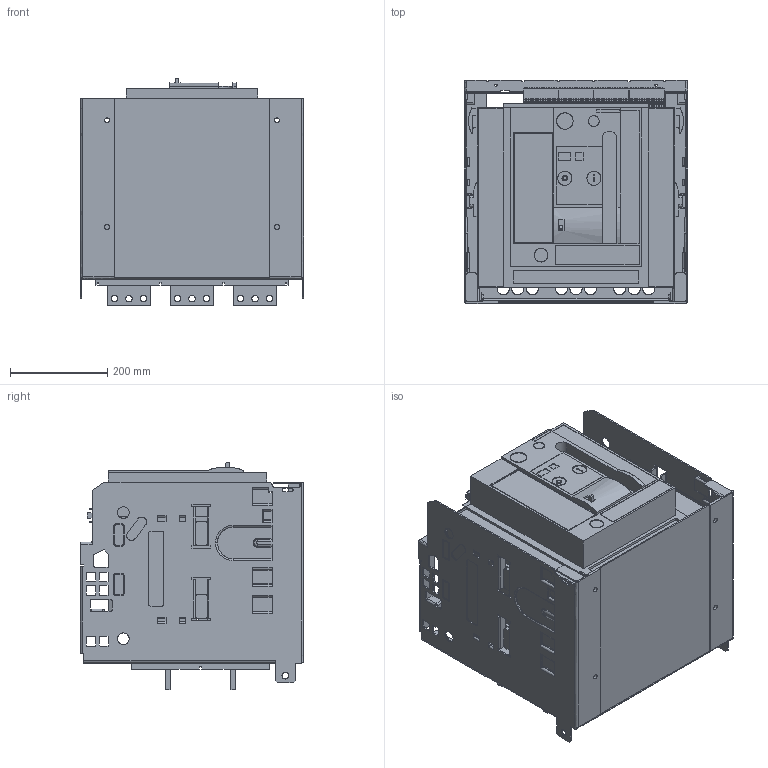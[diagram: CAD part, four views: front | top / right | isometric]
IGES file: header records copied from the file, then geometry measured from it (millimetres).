
Start section: SolidWorks IGES file using analytic representation for surfaces
Global section: file name: U:\14_RD\05_Technical_office\04_Office\Hrdinova\3D modely - IGES\Arion\ARION_WL1220-___36.IGS; native system: SolidWorks 2011; preprocessor: SolidWorks 2011; author: adhrja3; date: 170609.081340; units: millimetre
Bounding box: 460 x 460 x 469.66 mm (x, y, z)
Surface area: 2874025.2 mm2 (no closed solid volume)
Topology: 0 solids, 0 shells, 3143 faces, 28389 edges, 28387 vertices
Faces by surface type: bspline 2537, revolution 606
